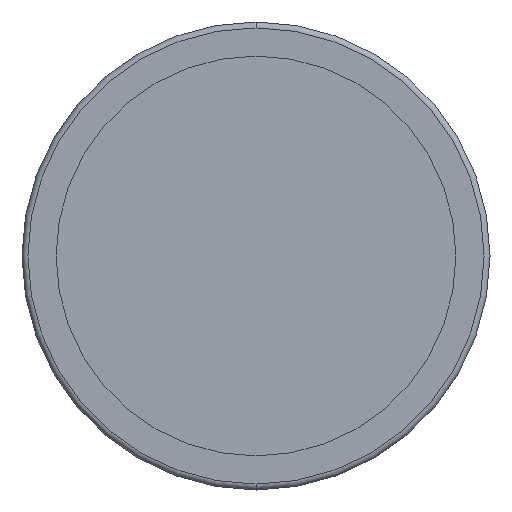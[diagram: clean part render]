
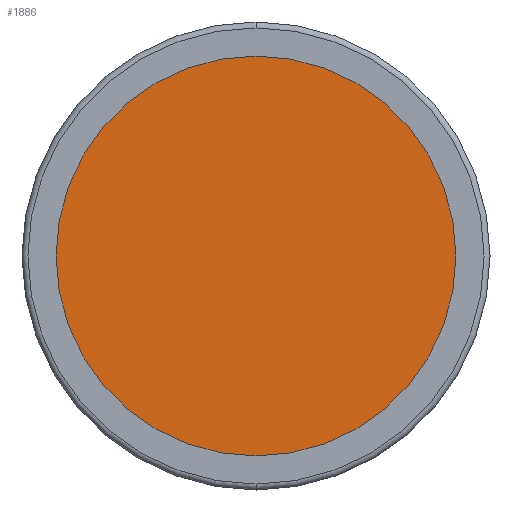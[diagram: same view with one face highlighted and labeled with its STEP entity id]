
A CAD part, front view. The second image highlights one B-rep face of the part: STEP entity #1886.
In plain terms, the highlighted planar face has unit normal (0, -1, 0).
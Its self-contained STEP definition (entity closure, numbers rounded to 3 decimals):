
#164 = CIRCLE ( 'NONE', #2128, 33.75 ) ;
#190 = DIRECTION ( 'NONE',  ( 0., 0., -1. ) ) ;
#419 = VERTEX_POINT ( 'NONE', #2837 ) ;
#470 = AXIS2_PLACEMENT_3D ( 'NONE', #1418, #919, #190 ) ;
#919 = DIRECTION ( 'NONE',  ( 0., -1., 0. ) ) ;
#1066 = DIRECTION ( 'NONE',  ( 0., 0., 1. ) ) ;
#1080 = CARTESIAN_POINT ( 'NONE',  ( 0., -2., 0. ) ) ;
#1418 = CARTESIAN_POINT ( 'NONE',  ( -33.75, -2., 0. ) ) ;
#1642 = FACE_OUTER_BOUND ( 'NONE', #1794, .T. ) ;
#1688 = DIRECTION ( 'NONE',  ( 0., 1., 0. ) ) ;
#1715 = AXIS2_PLACEMENT_3D ( 'NONE', #1974, #1688, #2231 ) ;
#1717 = CIRCLE ( 'NONE', #1715, 33.75 ) ;
#1794 = EDGE_LOOP ( 'NONE', ( #2550, #2730 ) ) ;
#1886 = ADVANCED_FACE ( 'NONE', ( #1642 ), #2377, .T. ) ;
#1974 = CARTESIAN_POINT ( 'NONE',  ( 0., -2., 0. ) ) ;
#2128 = AXIS2_PLACEMENT_3D ( 'NONE', #1080, #2757, #1066 ) ;
#2210 = CARTESIAN_POINT ( 'NONE',  ( 0., -2., 33.75 ) ) ;
#2231 = DIRECTION ( 'NONE',  ( 0., 0., 1. ) ) ;
#2368 = EDGE_CURVE ( 'NONE', #2803, #419, #1717, .T. ) ;
#2377 = PLANE ( 'NONE',  #470 ) ;
#2470 = EDGE_CURVE ( 'NONE', #419, #2803, #164, .T. ) ;
#2550 = ORIENTED_EDGE ( 'NONE', *, *, #2368, .F. ) ;
#2730 = ORIENTED_EDGE ( 'NONE', *, *, #2470, .F. ) ;
#2757 = DIRECTION ( 'NONE',  ( 0., 1., 0. ) ) ;
#2803 = VERTEX_POINT ( 'NONE', #2210 ) ;
#2837 = CARTESIAN_POINT ( 'NONE',  ( 0., -2., -33.75 ) ) ;
